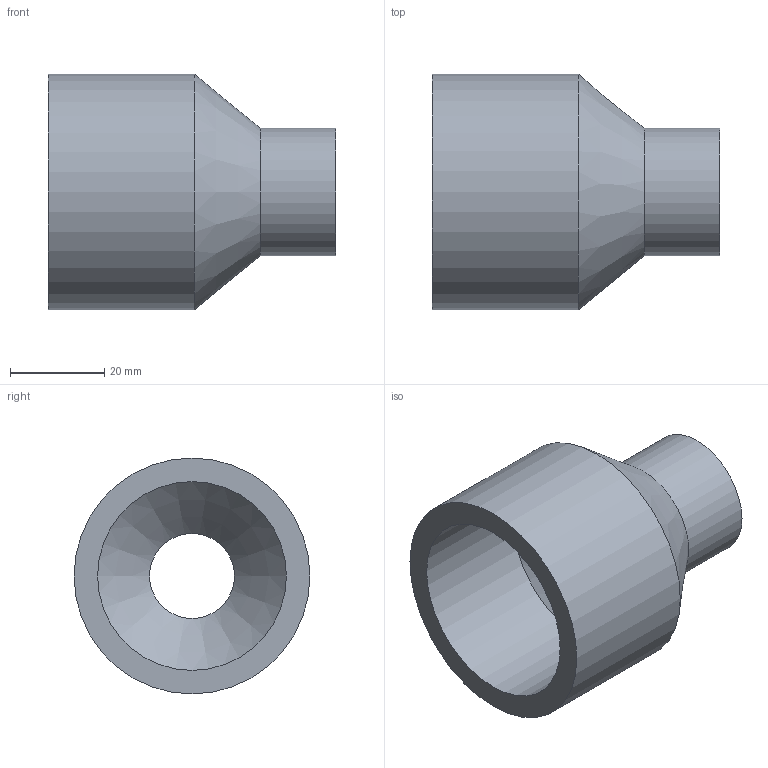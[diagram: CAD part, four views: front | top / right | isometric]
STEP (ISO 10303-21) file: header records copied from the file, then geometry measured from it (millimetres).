
FILE_DESCRIPTION(/* description */ ('PLASSON REDUCING SOCKET M.F.50(40)20 CEMENTED'),/* implementation_level */ '2;1');
FILE_NAME(/* name */ 'C:\Dropbox\KIMPROJECTS-Inventor\99-16-3568-Processing\PVC Catalog 2017\050200\050200050020.ipt.stp',/* time_stamp */ '2017-12-07T15:52:30+02:00',/* author */ ('KIM'),/* organization */ (''),/* preprocessor_version */ 'ST-DEVELOPER v15.6',/* originating_system */ 'Autodesk Inventor 2015',/* authorisation */ '');
FILE_SCHEMA (('AUTOMOTIVE_DESIGN { 1 0 10303 214 3 1 1 }'));
Length unit declared in the file: millimetre
Products named in the file (1): 050200050020
Bounding box: 61 x 50 x 50 mm (x, y, z)
Volume: 39463.1 mm3; surface area: 15585.2 mm2
Topology: 1 solids, 1 shells, 10 faces, 17 edges, 10 vertices
Faces by surface type: cylinder 5, plane 3, cone 2
Full cylindrical faces by diameter (mm): 18 x1, 20 x1, 27 x1, 40 x1, 50 x1
Entity records: 232 total; most frequent: DIRECTION 42, CARTESIAN_POINT 31, AXIS2_PLACEMENT_3D 21, EDGE_LOOP 20, ORIENTED_EDGE 20, FACE_BOUND 10, FACE_OUTER_BOUND 10, CIRCLE 10
